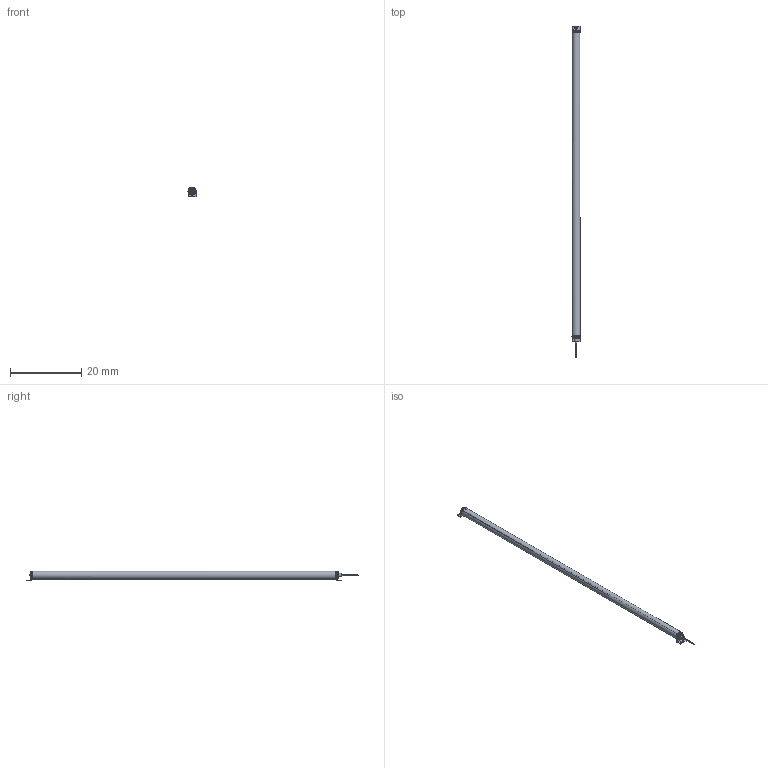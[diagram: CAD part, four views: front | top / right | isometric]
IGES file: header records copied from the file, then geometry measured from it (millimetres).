
Start section:  Autodesk DirectConnect version 7.0.27.0 ---- IGES version 5.3
Global section: file name: C:\ACADFILES\MG_PYLONS\CUSTOMER_FILES\MG-84-PYLON_3D_SMB_PT.iges; native system: Autodesk DirectConnect 7.0.27.0; preprocessor: 7.0.27.0; author: ENGINEERMAIN; organization: Unknown; date: 20150810.143739; units: millimetre
Bounding box: 2.26 x 93.44 x 2.75 mm (x, y, z)
Surface area: 2452.1 mm2 (no closed solid volume)
Topology: 0 solids, 0 shells, 784 faces, 4052 edges, 4055 vertices
Faces by surface type: bspline 784
